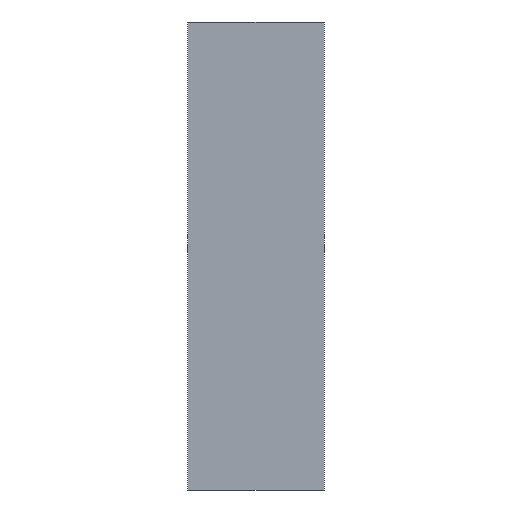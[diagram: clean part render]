
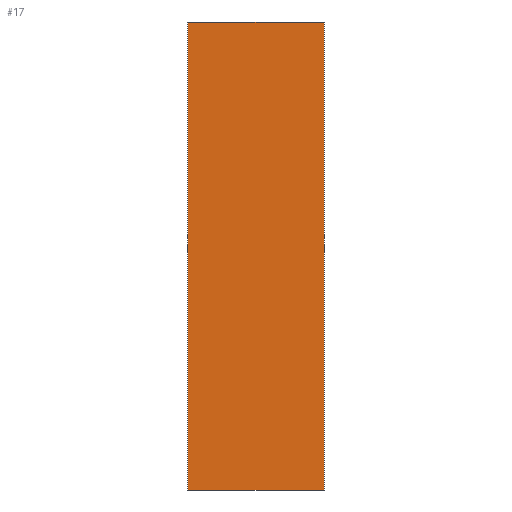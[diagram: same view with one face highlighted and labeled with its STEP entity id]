
A CAD part, left-side view. The second image highlights one B-rep face of the part: STEP entity #17.
In plain terms, the highlighted planar face has unit normal (-1, 0, 0).
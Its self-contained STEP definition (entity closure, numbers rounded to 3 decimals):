
#17 = ADVANCED_FACE('',(#18),#52,.F.);
#18 = FACE_BOUND('',#19,.F.);
#19 = EDGE_LOOP('',(#20,#30,#38,#46));
#20 = ORIENTED_EDGE('',*,*,#21,.F.);
#21 = EDGE_CURVE('',#22,#24,#26,.T.);
#22 = VERTEX_POINT('',#23);
#23 = CARTESIAN_POINT('',(5.6,-51.,227.));
#24 = VERTEX_POINT('',#25);
#25 = CARTESIAN_POINT('',(5.6,-51.,251.));
#26 = LINE('',#27,#28);
#27 = CARTESIAN_POINT('',(5.6,-51.,227.));
#28 = VECTOR('',#29,1.);
#29 = DIRECTION('',(0.,0.,1.));
#30 = ORIENTED_EDGE('',*,*,#31,.T.);
#31 = EDGE_CURVE('',#22,#32,#34,.T.);
#32 = VERTEX_POINT('',#33);
#33 = CARTESIAN_POINT('',(5.6,-44.,227.));
#34 = LINE('',#35,#36);
#35 = CARTESIAN_POINT('',(5.6,-51.,227.));
#36 = VECTOR('',#37,1.);
#37 = DIRECTION('',(0.,1.,0.));
#38 = ORIENTED_EDGE('',*,*,#39,.T.);
#39 = EDGE_CURVE('',#32,#40,#42,.T.);
#40 = VERTEX_POINT('',#41);
#41 = CARTESIAN_POINT('',(5.6,-44.,251.));
#42 = LINE('',#43,#44);
#43 = CARTESIAN_POINT('',(5.6,-44.,227.));
#44 = VECTOR('',#45,1.);
#45 = DIRECTION('',(0.,0.,1.));
#46 = ORIENTED_EDGE('',*,*,#47,.F.);
#47 = EDGE_CURVE('',#24,#40,#48,.T.);
#48 = LINE('',#49,#50);
#49 = CARTESIAN_POINT('',(5.6,-51.,251.));
#50 = VECTOR('',#51,1.);
#51 = DIRECTION('',(0.,1.,0.));
#52 = PLANE('',#53);
#53 = AXIS2_PLACEMENT_3D('',#54,#55,#56);
#54 = CARTESIAN_POINT('',(5.6,-51.,227.));
#55 = DIRECTION('',(1.,0.,0.));
#56 = DIRECTION('',(0.,0.,1.));
